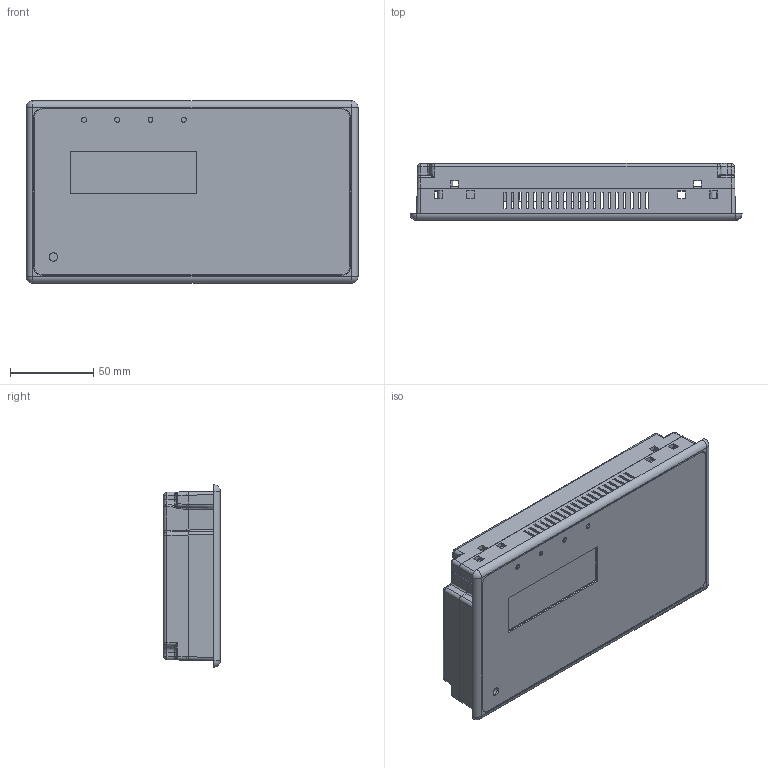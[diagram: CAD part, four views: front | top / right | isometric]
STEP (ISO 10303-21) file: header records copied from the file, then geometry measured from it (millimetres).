
FILE_DESCRIPTION (( 'STEP AP214' ), '1' );
FILE_NAME ('UIF-420A_ASM.STEP', '2019-10-07T04:34:56', ( 'luke' ), ( '' ), 'SwSTEP 2.0', 'SolidWorks 2016', '' );
FILE_SCHEMA (( 'AUTOMOTIVE_DESIGN' ));
Length unit declared in the file: millimetre
Products named in the file (1): UIF-420A_ASM
Bounding box: 200 x 34.2 x 110 mm (x, y, z)
Surface area: 164603.4 mm2 (no closed solid volume)
Topology: 0 solids, 35 shells, 894 faces, 3162 edges, 2255 vertices
Faces by surface type: plane 658, cylinder 138, bspline 42, cone 23, torus 20, sphere 13
Full cylindrical faces by diameter (mm): 0.5 x8, 1 x10, 2.4 x4, 2.5 x1, 2.845 x2, 3 x8, 3.2 x1, 4 x1, 5 x2, 6 x5
Entity records: 44844 total; most frequent: CARTESIAN_POINT 9160, DIRECTION 4991, ORIENTED_EDGE 4756, EDGE_CURVE 3054, LINE 2431, VECTOR 2431, VERTEX_POINT 2234, AXIS2_PLACEMENT_3D 1280
